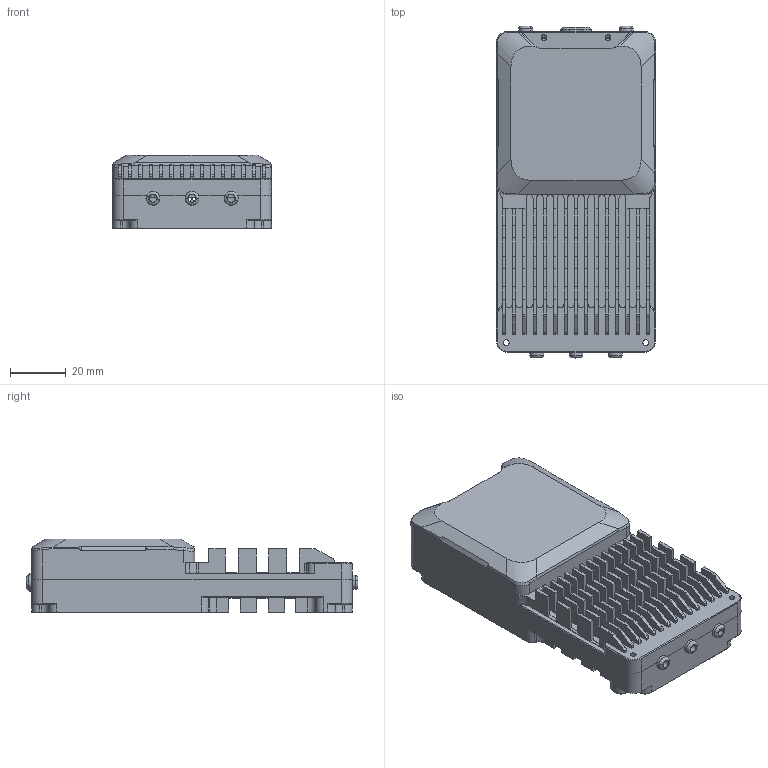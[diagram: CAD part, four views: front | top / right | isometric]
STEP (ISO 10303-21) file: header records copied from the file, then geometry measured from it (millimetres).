
FILE_DESCRIPTION (( 'STEP AP203' ), '1' );
FILE_NAME ('V60A-24S.STEP', '2025-09-08T03:46:30', ( '微软用户' ), ( '微软中国' ), 'SwSTEP 2.0', 'SolidWorks 2022', '' );
FILE_SCHEMA (( 'CONFIG_CONTROL_DESIGN' ));
Length unit declared in the file: millimetre
Products named in the file (5): BJJ02020427-V60A-24S电调下盖-B; 信号线，编码器线（4mm）护线圈-; V60A-24S; V60A-24S电调上盖-A; 14AWG(线径3mm)
Assembly tree (8 placements, depth 2):
  V60A-24S
    BJJ02020427-V60A-24S电调下盖-B
    V60A-24S电调上盖-A
    信号线，编码器线（4mm）护线圈-
    14AWG(线径3mm)  x5
Bounding box: 57 x 119 x 26.5 mm (x, y, z)
Volume: 37205.9 mm3; surface area: 53926.3 mm2
Topology: 8 solids, 8 shells, 1177 faces, 3250 edges, 2099 vertices
Faces by surface type: plane 707, cylinder 363, cone 57, bspline 36, torus 12, sphere 2
Entity records: 37822 total; most frequent: CARTESIAN_POINT 8276, ORIENTED_EDGE 6228, DIRECTION 5863, EDGE_CURVE 3114, VECTOR 2283, LINE 2283, VERTEX_POINT 2027, AXIS2_PLACEMENT_3D 1790
